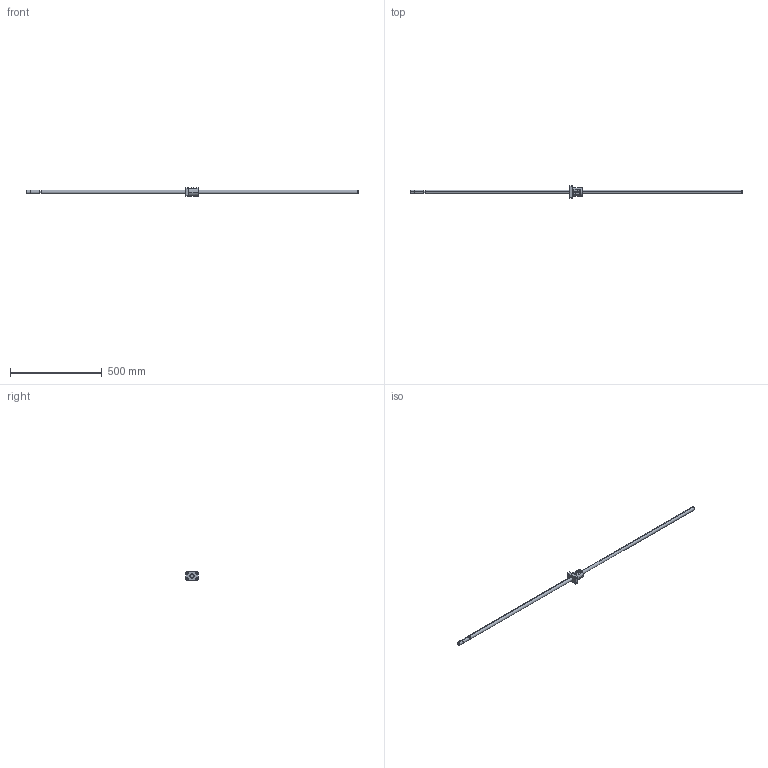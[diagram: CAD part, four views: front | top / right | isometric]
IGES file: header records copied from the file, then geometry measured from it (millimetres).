
Global section: file name: No Iges File Name specified; native system: AutoDesk Inventor R10; preprocessor: AutoDesk Inventor Iges Exporter R10; author: No Author specified; organization: No Organization specified; date: 20101224.141629; units: millimetre
Bounding box: 1805 x 66 x 46 mm (x, y, z)
Surface area: 137427.9 mm2 (no closed solid volume)
Topology: 0 solids, 0 shells, 132 faces, 980 edges, 980 vertices
Faces by surface type: bspline 132
